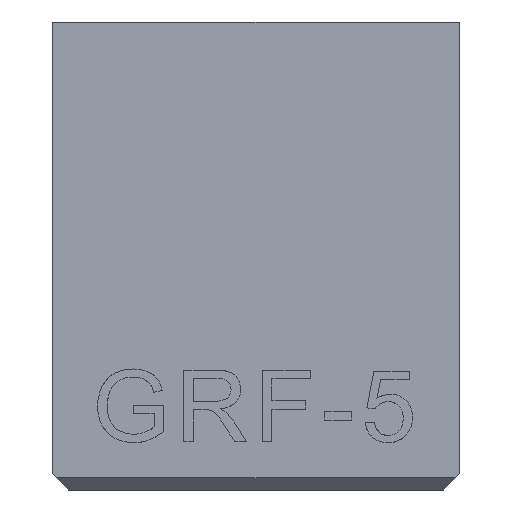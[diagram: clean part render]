
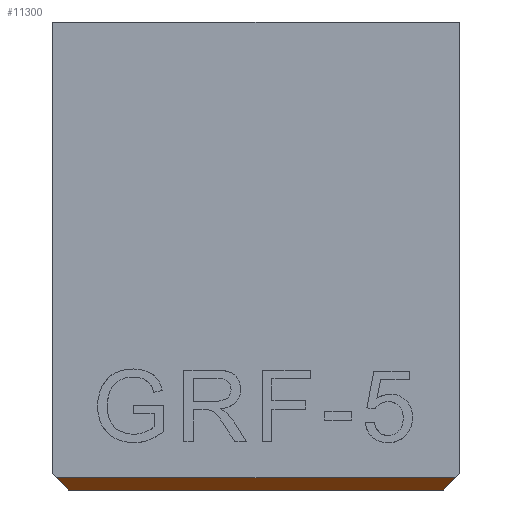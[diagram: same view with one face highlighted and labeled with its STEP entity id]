
A CAD part, front view. The second image highlights one B-rep face of the part: STEP entity #11300.
In plain terms, the highlighted planar face has unit normal (0, -0.707, -0.707).
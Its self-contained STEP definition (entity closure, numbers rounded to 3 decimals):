
#44 = PLANE('',#45);
#45 = AXIS2_PLACEMENT_3D('',#46,#47,#48);
#46 = CARTESIAN_POINT('',(-14.7,4.3,-19.6));
#47 = DIRECTION('',(-0.707,0.,-0.707));
#48 = DIRECTION('',(0.,-1.,0.));
#72 = PLANE('',#73);
#73 = AXIS2_PLACEMENT_3D('',#74,#75,#76);
#74 = CARTESIAN_POINT('',(4.9,5.,-20.));
#75 = DIRECTION('',(0.,0.,-1.));
#76 = DIRECTION('',(-1.,0.,0.));
#100 = PLANE('',#101);
#101 = AXIS2_PLACEMENT_3D('',#102,#103,#104);
#102 = CARTESIAN_POINT('',(4.5,4.3,-19.6));
#103 = DIRECTION('',(0.707,0.,-0.707));
#104 = DIRECTION('',(0.,1.,0.));
#143 = VERTEX_POINT('',#144);
#144 = CARTESIAN_POINT('',(-14.3,-3.4,-20.));
#165 = EDGE_CURVE('',#166,#143,#168,.T.);
#166 = VERTEX_POINT('',#167);
#167 = CARTESIAN_POINT('',(-14.9,-4.,-19.4));
#168 = SURFACE_CURVE('',#169,(#173,#180),.PCURVE_S1.);
#169 = LINE('',#170,#171);
#170 = CARTESIAN_POINT('',(-13.433,-2.533,
    -20.867));
#171 = VECTOR('',#172,1.);
#172 = DIRECTION('',(0.577,0.577,-0.577));
#173 = PCURVE('',#44,#174);
#174 = DEFINITIONAL_REPRESENTATION('',(#175),#179);
#175 = LINE('',#176,#177);
#176 = CARTESIAN_POINT('',(6.833,-1.791));
#177 = VECTOR('',#178,1.);
#178 = DIRECTION('',(-0.577,-0.816));
#179 = ( GEOMETRIC_REPRESENTATION_CONTEXT(2) 
PARAMETRIC_REPRESENTATION_CONTEXT() REPRESENTATION_CONTEXT('2D SPACE',''
  ) );
#180 = PCURVE('',#181,#186);
#181 = PLANE('',#182);
#182 = AXIS2_PLACEMENT_3D('',#183,#184,#185);
#183 = CARTESIAN_POINT('',(-15.2,-3.8,-19.6));
#184 = DIRECTION('',(0.,0.707,0.707));
#185 = DIRECTION('',(1.,0.,0.));
#186 = DEFINITIONAL_REPRESENTATION('',(#187),#191);
#187 = LINE('',#188,#189);
#188 = CARTESIAN_POINT('',(1.767,1.791));
#189 = VECTOR('',#190,1.);
#190 = DIRECTION('',(0.577,0.816));
#191 = ( GEOMETRIC_REPRESENTATION_CONTEXT(2) 
PARAMETRIC_REPRESENTATION_CONTEXT() REPRESENTATION_CONTEXT('2D SPACE',''
  ) );
#209 = PLANE('',#210);
#210 = AXIS2_PLACEMENT_3D('',#211,#212,#213);
#211 = CARTESIAN_POINT('',(4.9,-4.,-25.));
#212 = DIRECTION('',(0.,-1.,0.));
#213 = DIRECTION('',(-1.,0.,0.));
#7491 = VERTEX_POINT('',#7492);
#7492 = CARTESIAN_POINT('',(4.1,-3.4,-20.));
#7513 = EDGE_CURVE('',#7514,#7491,#7516,.T.);
#7514 = VERTEX_POINT('',#7515);
#7515 = CARTESIAN_POINT('',(4.7,-4.,-19.4));
#7516 = SURFACE_CURVE('',#7517,(#7521,#7528),.PCURVE_S1.);
#7517 = LINE('',#7518,#7519);
#7518 = CARTESIAN_POINT('',(-0.133,0.833,
    -24.233));
#7519 = VECTOR('',#7520,1.);
#7520 = DIRECTION('',(-0.577,0.577,-0.577));
#7521 = PCURVE('',#100,#7522);
#7522 = DEFINITIONAL_REPRESENTATION('',(#7523),#7527);
#7523 = LINE('',#7524,#7525);
#7524 = CARTESIAN_POINT('',(-3.467,-6.553));
#7525 = VECTOR('',#7526,1.);
#7526 = DIRECTION('',(0.577,-0.816));
#7527 = ( GEOMETRIC_REPRESENTATION_CONTEXT(2) 
PARAMETRIC_REPRESENTATION_CONTEXT() REPRESENTATION_CONTEXT('2D SPACE',''
  ) );
#7528 = PCURVE('',#181,#7529);
#7529 = DEFINITIONAL_REPRESENTATION('',(#7530),#7534);
#7530 = LINE('',#7531,#7532);
#7531 = CARTESIAN_POINT('',(15.067,6.553));
#7532 = VECTOR('',#7533,1.);
#7533 = DIRECTION('',(-0.577,0.816));
#7534 = ( GEOMETRIC_REPRESENTATION_CONTEXT(2) 
PARAMETRIC_REPRESENTATION_CONTEXT() REPRESENTATION_CONTEXT('2D SPACE',''
  ) );
#7587 = EDGE_CURVE('',#7491,#143,#7588,.T.);
#7588 = SURFACE_CURVE('',#7589,(#7593,#7600),.PCURVE_S1.);
#7589 = LINE('',#7590,#7591);
#7590 = CARTESIAN_POINT('',(-5.15,-3.4,-20.));
#7591 = VECTOR('',#7592,1.);
#7592 = DIRECTION('',(-1.,0.,0.));
#7593 = PCURVE('',#72,#7594);
#7594 = DEFINITIONAL_REPRESENTATION('',(#7595),#7599);
#7595 = LINE('',#7596,#7597);
#7596 = CARTESIAN_POINT('',(10.05,-8.4));
#7597 = VECTOR('',#7598,1.);
#7598 = DIRECTION('',(1.,0.));
#7599 = ( GEOMETRIC_REPRESENTATION_CONTEXT(2) 
PARAMETRIC_REPRESENTATION_CONTEXT() REPRESENTATION_CONTEXT('2D SPACE',''
  ) );
#7600 = PCURVE('',#181,#7601);
#7601 = DEFINITIONAL_REPRESENTATION('',(#7602),#7606);
#7602 = LINE('',#7603,#7604);
#7603 = CARTESIAN_POINT('',(10.05,0.566));
#7604 = VECTOR('',#7605,1.);
#7605 = DIRECTION('',(-1.,0.));
#7606 = ( GEOMETRIC_REPRESENTATION_CONTEXT(2) 
PARAMETRIC_REPRESENTATION_CONTEXT() REPRESENTATION_CONTEXT('2D SPACE',''
  ) );
#7976 = EDGE_CURVE('',#166,#7514,#7977,.T.);
#7977 = SURFACE_CURVE('',#7978,(#7982,#7989),.PCURVE_S1.);
#7978 = LINE('',#7979,#7980);
#7979 = CARTESIAN_POINT('',(-5.15,-4.,-19.4));
#7980 = VECTOR('',#7981,1.);
#7981 = DIRECTION('',(1.,0.,0.));
#7982 = PCURVE('',#209,#7983);
#7983 = DEFINITIONAL_REPRESENTATION('',(#7984),#7988);
#7984 = LINE('',#7985,#7986);
#7985 = CARTESIAN_POINT('',(10.05,-5.6));
#7986 = VECTOR('',#7987,1.);
#7987 = DIRECTION('',(-1.,-0.));
#7988 = ( GEOMETRIC_REPRESENTATION_CONTEXT(2) 
PARAMETRIC_REPRESENTATION_CONTEXT() REPRESENTATION_CONTEXT('2D SPACE',''
  ) );
#7989 = PCURVE('',#181,#7990);
#7990 = DEFINITIONAL_REPRESENTATION('',(#7991),#7995);
#7991 = LINE('',#7992,#7993);
#7992 = CARTESIAN_POINT('',(10.05,-0.283));
#7993 = VECTOR('',#7994,1.);
#7994 = DIRECTION('',(1.,0.));
#7995 = ( GEOMETRIC_REPRESENTATION_CONTEXT(2) 
PARAMETRIC_REPRESENTATION_CONTEXT() REPRESENTATION_CONTEXT('2D SPACE',''
  ) );
#11300 = ADVANCED_FACE('',(#11301),#181,.F.);
#11301 = FACE_BOUND('',#11302,.F.);
#11302 = EDGE_LOOP('',(#11303,#11304,#11305,#11306));
#11303 = ORIENTED_EDGE('',*,*,#165,.F.);
#11304 = ORIENTED_EDGE('',*,*,#7976,.T.);
#11305 = ORIENTED_EDGE('',*,*,#7513,.T.);
#11306 = ORIENTED_EDGE('',*,*,#7587,.T.);
